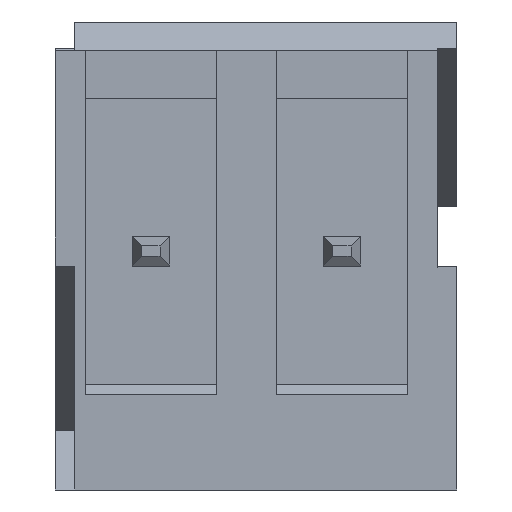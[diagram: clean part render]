
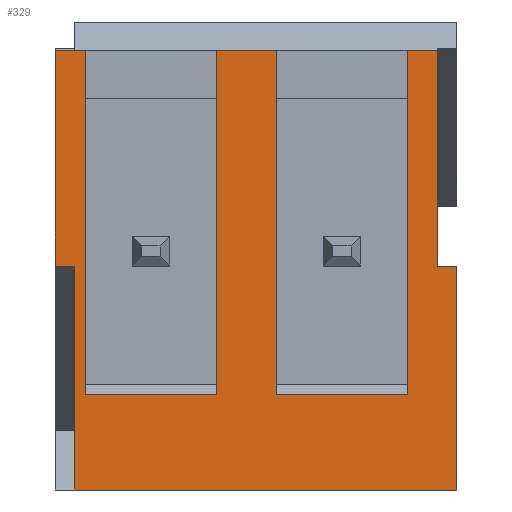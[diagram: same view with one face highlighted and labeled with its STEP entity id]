
A CAD part, front view. The second image highlights one B-rep face of the part: STEP entity #329.
In plain terms, the highlighted planar face has unit normal (0, -1, 0).
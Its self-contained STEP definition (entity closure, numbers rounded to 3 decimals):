
#329=ADVANCED_FACE('',(#706),#707,.T.);
#706=FACE_OUTER_BOUND('',#1131,.T.);
#707=PLANE('',#1132);
#1131=EDGE_LOOP('',(#1984,#1985,#1986,#1987,#1988,#1989,#1990,#1991,#1992,#1993,#1994,#1995,#1996,#1997,#1998,#1999));
#1132=AXIS2_PLACEMENT_3D('',#2000,#2001,#2002);
#1984=ORIENTED_EDGE('',*,*,#2752,.T.);
#1985=ORIENTED_EDGE('',*,*,#2728,.T.);
#1986=ORIENTED_EDGE('',*,*,#2733,.T.);
#1987=ORIENTED_EDGE('',*,*,#2755,.T.);
#1988=ORIENTED_EDGE('',*,*,#2756,.T.);
#1989=ORIENTED_EDGE('',*,*,#2757,.T.);
#1990=ORIENTED_EDGE('',*,*,#2758,.T.);
#1991=ORIENTED_EDGE('',*,*,#2759,.F.);
#1992=ORIENTED_EDGE('',*,*,#2760,.T.);
#1993=ORIENTED_EDGE('',*,*,#2761,.T.);
#1994=ORIENTED_EDGE('',*,*,#2762,.T.);
#1995=ORIENTED_EDGE('',*,*,#2763,.T.);
#1996=ORIENTED_EDGE('',*,*,#2764,.T.);
#1997=ORIENTED_EDGE('',*,*,#2765,.T.);
#1998=ORIENTED_EDGE('',*,*,#2766,.T.);
#1999=ORIENTED_EDGE('',*,*,#2767,.T.);
#2000=CARTESIAN_POINT('',(8.128,0.0,-0.508));
#2001=DIRECTION('',(0.0,-1.0,0.0));
#2002=DIRECTION('',(0.,0.0,1.0));
#2728=EDGE_CURVE('',#3299,#3300,#3301,.T.);
#2733=EDGE_CURVE('',#3300,#3308,#3309,.T.);
#2752=EDGE_CURVE('',#3336,#3299,#3337,.T.);
#2755=EDGE_CURVE('',#3308,#3340,#3341,.T.);
#2756=EDGE_CURVE('',#3340,#3342,#3343,.T.);
#2757=EDGE_CURVE('',#3342,#3344,#3345,.T.);
#2758=EDGE_CURVE('',#3344,#3346,#3347,.T.);
#2759=EDGE_CURVE('',#3348,#3346,#3349,.T.);
#2760=EDGE_CURVE('',#3348,#3350,#3351,.T.);
#2761=EDGE_CURVE('',#3350,#3352,#3353,.T.);
#2762=EDGE_CURVE('',#3352,#3354,#3355,.T.);
#2763=EDGE_CURVE('',#3354,#3356,#3357,.T.);
#2764=EDGE_CURVE('',#3356,#3358,#3359,.T.);
#2765=EDGE_CURVE('',#3358,#3360,#3361,.T.);
#2766=EDGE_CURVE('',#3360,#3362,#3363,.T.);
#2767=EDGE_CURVE('',#3362,#3336,#3364,.T.);
#3299=VERTEX_POINT('',#4193);
#3300=VERTEX_POINT('',#4194);
#3301=LINE('',#4195,#4196);
#3308=VERTEX_POINT('',#4206);
#3309=LINE('',#4207,#4208);
#3336=VERTEX_POINT('',#4248);
#3337=LINE('',#4249,#4250);
#3340=VERTEX_POINT('',#4254);
#3341=LINE('',#4255,#4256);
#3342=VERTEX_POINT('',#4257);
#3343=LINE('',#4258,#4259);
#3344=VERTEX_POINT('',#4260);
#3345=LINE('',#4261,#4262);
#3346=VERTEX_POINT('',#4263);
#3347=LINE('',#4264,#4265);
#3348=VERTEX_POINT('',#4266);
#3349=LINE('',#4267,#4268);
#3350=VERTEX_POINT('',#4269);
#3351=LINE('',#4270,#4271);
#3352=VERTEX_POINT('',#4272);
#3353=LINE('',#4273,#4274);
#3354=VERTEX_POINT('',#4275);
#3355=LINE('',#4276,#4277);
#3356=VERTEX_POINT('',#4278);
#3357=LINE('',#4279,#4280);
#3358=VERTEX_POINT('',#4281);
#3359=LINE('',#4282,#4283);
#3360=VERTEX_POINT('',#4284);
#3361=LINE('',#4285,#4286);
#3362=VERTEX_POINT('',#4287);
#3363=LINE('',#4288,#4289);
#3364=LINE('',#4290,#4291);
#4193=CARTESIAN_POINT('',(1.75,0.0,-3.81));
#4194=CARTESIAN_POINT('',(-1.75,0.0,-3.81));
#4195=CARTESIAN_POINT('',(4.939,0.0,-3.81));
#4196=VECTOR('',#4968,1.0);
#4206=CARTESIAN_POINT('',(-1.75,0.0,5.334));
#4207=CARTESIAN_POINT('',(-1.75,0.0,0.668));
#4208=VECTOR('',#4972,1.0);
#4248=CARTESIAN_POINT('',(1.75,0.0,5.334));
#4249=CARTESIAN_POINT('',(1.75,0.0,0.668));
#4250=VECTOR('',#4986,1.0);
#4254=CARTESIAN_POINT('',(-2.54,0.0,5.334));
#4255=CARTESIAN_POINT('',(8.128,0.0,5.334));
#4256=VECTOR('',#4988,1.0);
#4257=CARTESIAN_POINT('',(-2.54,0.0,-0.394));
#4258=CARTESIAN_POINT('',(-2.54,0.0,-6.35));
#4259=VECTOR('',#4989,1.0);
#4260=CARTESIAN_POINT('',(-2.032,0.0,-0.394));
#4261=CARTESIAN_POINT('',(3.048,0.0,-0.394));
#4262=VECTOR('',#4990,1.0);
#4263=CARTESIAN_POINT('',(-2.032,0.0,-6.35));
#4264=CARTESIAN_POINT('',(-2.032,0.0,0.873));
#4265=VECTOR('',#4991,1.0);
#4266=CARTESIAN_POINT('',(8.128,0.0,-6.35));
#4267=CARTESIAN_POINT('',(8.128,0.0,-6.35));
#4268=VECTOR('',#4992,1.0);
#4269=CARTESIAN_POINT('',(8.128,0.0,-0.394));
#4270=CARTESIAN_POINT('',(8.128,0.0,-6.35));
#4271=VECTOR('',#4993,1.0);
#4272=CARTESIAN_POINT('',(7.62,0.0,-0.394));
#4273=CARTESIAN_POINT('',(8.628,0.,-0.394));
#4274=VECTOR('',#4994,1.0);
#4275=CARTESIAN_POINT('',(7.62,0.0,5.334));
#4276=CARTESIAN_POINT('',(7.62,0.0,-0.23));
#4277=VECTOR('',#4995,1.0);
#4278=CARTESIAN_POINT('',(6.83,0.0,5.334));
#4279=CARTESIAN_POINT('',(8.128,0.0,5.334));
#4280=VECTOR('',#4996,1.0);
#4281=CARTESIAN_POINT('',(6.83,0.0,-3.81));
#4282=CARTESIAN_POINT('',(6.83,0.0,0.668));
#4283=VECTOR('',#4997,1.0);
#4284=CARTESIAN_POINT('',(3.33,0.0,-3.81));
#4285=CARTESIAN_POINT('',(7.479,0.0,-3.81));
#4286=VECTOR('',#4998,1.0);
#4287=CARTESIAN_POINT('',(3.33,0.0,5.334));
#4288=CARTESIAN_POINT('',(3.33,0.0,0.668));
#4289=VECTOR('',#4999,1.0);
#4290=CARTESIAN_POINT('',(8.128,0.0,5.334));
#4291=VECTOR('',#5000,1.0);
#4968=DIRECTION('',(-1.0,0.0,0.));
#4972=DIRECTION('',(0.,0.0,1.0));
#4986=DIRECTION('',(0.,-0.0,-1.0));
#4988=DIRECTION('',(-1.0,0.0,0.));
#4989=DIRECTION('',(0.,-0.0,-1.0));
#4990=DIRECTION('',(1.0,0.0,0.));
#4991=DIRECTION('',(0.,-0.0,-1.0));
#4992=DIRECTION('',(-1.0,0.0,0.));
#4993=DIRECTION('',(0.,0.0,1.0));
#4994=DIRECTION('',(-1.0,0.0,0.));
#4995=DIRECTION('',(0.,0.0,1.0));
#4996=DIRECTION('',(-1.0,0.0,0.));
#4997=DIRECTION('',(0.,-0.0,-1.0));
#4998=DIRECTION('',(-1.0,0.0,0.));
#4999=DIRECTION('',(0.,0.0,1.0));
#5000=DIRECTION('',(-1.0,0.0,0.));
